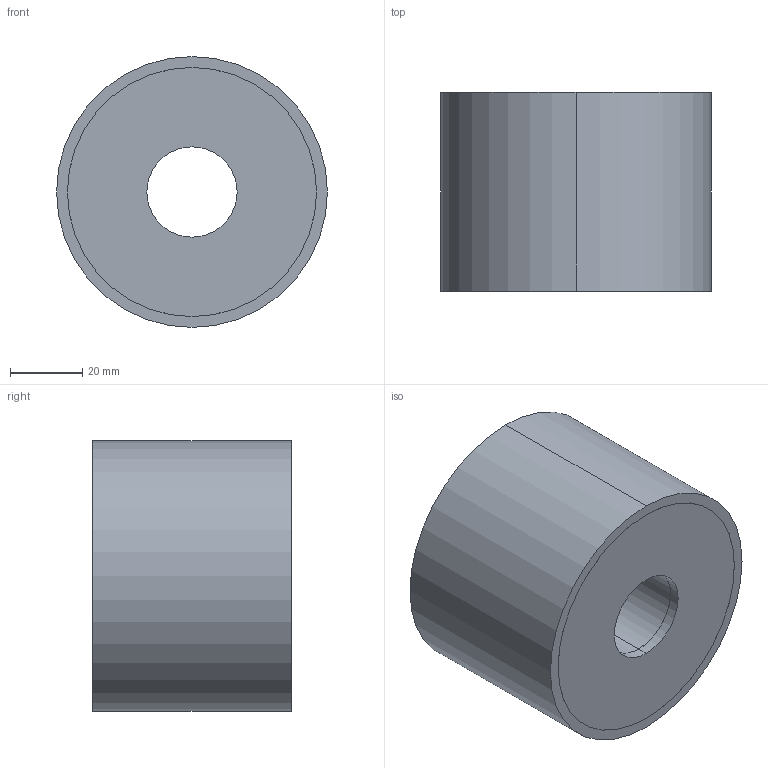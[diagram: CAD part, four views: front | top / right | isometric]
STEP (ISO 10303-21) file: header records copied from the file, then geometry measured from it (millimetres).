
FILE_DESCRIPTION (( 'STEP AP214' ), '1' );
FILE_NAME ('351-75-55-25-DD-70.step', '2025-07-23T10:12:11', ( '' ), ( '' ), 'SwSTEP 2.0', 'SolidWorks 2022', '' );
FILE_SCHEMA (( 'AUTOMOTIVE_DESIGN' ));
Length unit declared in the file: millimetre
Products named in the file (1): 351-75-55-25-DD-70
Bounding box: 75 x 55 x 75 mm (x, y, z)
Volume: 215984.4 mm3; surface area: 25144.6 mm2
Topology: 1 solids, 1 shells, 30 faces, 60 edges, 40 vertices
Faces by surface type: cylinder 20, plane 10
Entity records: 919 total; most frequent: DIRECTION 162, CARTESIAN_POINT 131, ORIENTED_EDGE 120, AXIS2_PLACEMENT_3D 71, EDGE_CURVE 60, VERTEX_POINT 40, EDGE_LOOP 40, CIRCLE 40
